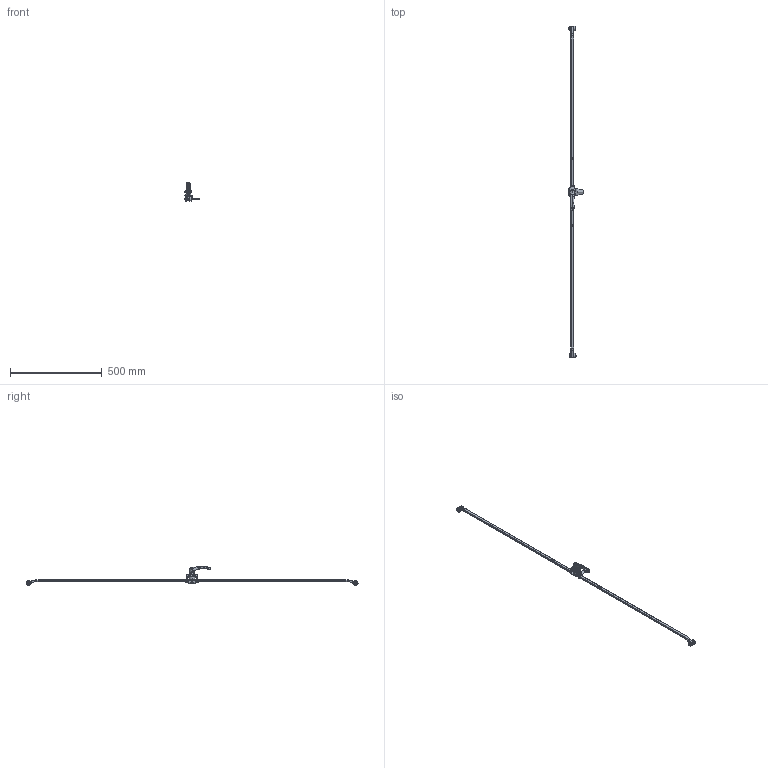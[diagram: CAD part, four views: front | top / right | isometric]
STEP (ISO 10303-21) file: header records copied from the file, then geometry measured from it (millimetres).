
FILE_DESCRIPTION (( 'STEP AP203' ), '1' );
FILE_NAME ('al3dr.STEP', '2018-07-03T19:40:33', ( '' ), ( '' ), 'SwSTEP 2.0', 'SolidWorks 2014', '' );
FILE_SCHEMA (( 'CONFIG_CONTROL_DESIGN' ));
Length unit declared in the file: inch
Products named in the file (18): 22108006; 26274018_26274018; 26118002_26118002; 89145324; 26123007_26123007 ; 89145328; 99401515; 89145315; 89157823_FLEXIBLE; 89145318; 26273018_26273018; al3dr; 89130215; 30101003; 22101005; 27115001; 22101006; 22318002
Assembly tree (21 placements, depth 3):
  al3dr
    26274018_26274018  x2
      26273018_26273018
      30101003
      27115001
      22318002
    89130215
      89145324
      89145328
      89145315
      89145318  x2
    89157823_FLEXIBLE
      22101005
      22101006
      22108006
      26118002_26118002  x2
      26123007_26123007 
      99401515
Bounding box: 85.85 x 1809.72 x 103.43 mm (x, y, z)
Volume: 171121.8 mm3; surface area: 210276 mm2
Topology: 25 solids, 29 shells, 2360 faces, 6147 edges, 3882 vertices
Faces by surface type: bspline 824, plane 697, cylinder 681, torus 91, cone 67
Entity records: 88637 total; most frequent: CARTESIAN_POINT 46475, ORIENTED_EDGE 9826, DIRECTION 6222, EDGE_CURVE 4946, VERTEX_POINT 3129, AXIS2_PLACEMENT_3D 2241, EDGE_LOOP 1984, B_SPLINE_CURVE_WITH_KNOTS 1925
